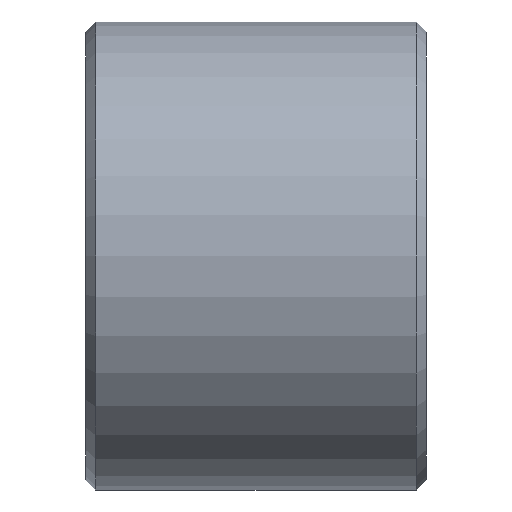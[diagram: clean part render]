
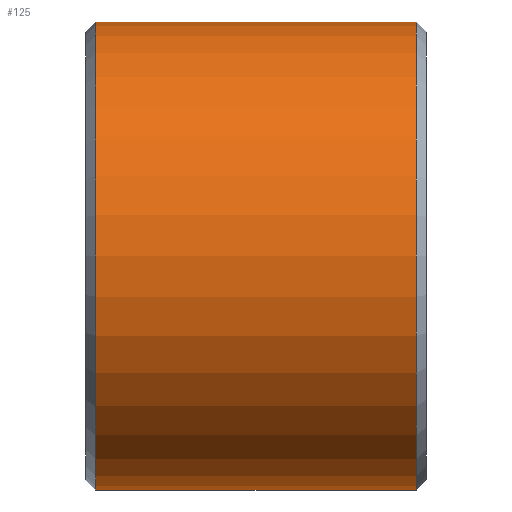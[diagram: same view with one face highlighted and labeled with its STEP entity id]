
A CAD part, front view. The second image highlights one B-rep face of the part: STEP entity #125.
In plain terms, the highlighted cylindrical face has radius 11.5 mm (diameter 23 mm), a full revolution.
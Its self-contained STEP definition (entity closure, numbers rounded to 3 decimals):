
#15=CYLINDRICAL_SURFACE('',#160,11.5);
#23=FACE_OUTER_BOUND('',#32,.T.);
#32=EDGE_LOOP('',(#94,#95,#96,#97,#98,#99));
#40=LINE('',#233,#46);
#46=VECTOR('',#193,11.5);
#52=CIRCLE('',#156,11.5);
#53=CIRCLE('',#157,11.5);
#55=CIRCLE('',#161,11.5);
#56=CIRCLE('',#162,11.5);
#62=VERTEX_POINT('',#220);
#63=VERTEX_POINT('',#222);
#65=VERTEX_POINT('',#229);
#66=VERTEX_POINT('',#230);
#73=EDGE_CURVE('',#62,#63,#52,.T.);
#74=EDGE_CURVE('',#63,#62,#53,.T.);
#76=EDGE_CURVE('',#65,#66,#55,.T.);
#77=EDGE_CURVE('',#66,#65,#56,.T.);
#78=EDGE_CURVE('',#66,#63,#40,.T.);
#94=ORIENTED_EDGE('',*,*,#76,.F.);
#95=ORIENTED_EDGE('',*,*,#77,.F.);
#96=ORIENTED_EDGE('',*,*,#78,.T.);
#97=ORIENTED_EDGE('',*,*,#73,.F.);
#98=ORIENTED_EDGE('',*,*,#74,.F.);
#99=ORIENTED_EDGE('',*,*,#78,.F.);
#125=ADVANCED_FACE('',(#23),#15,.T.);
#156=AXIS2_PLACEMENT_3D('',#223,#179,#180);
#157=AXIS2_PLACEMENT_3D('',#224,#181,#182);
#160=AXIS2_PLACEMENT_3D('',#228,#187,#188);
#161=AXIS2_PLACEMENT_3D('',#231,#189,#190);
#162=AXIS2_PLACEMENT_3D('',#232,#191,#192);
#179=DIRECTION('center_axis',(-1.,0.,0.));
#180=DIRECTION('ref_axis',(0.,-1.,0.));
#181=DIRECTION('center_axis',(-1.,0.,0.));
#182=DIRECTION('ref_axis',(0.,-1.,0.));
#187=DIRECTION('center_axis',(1.,0.,0.));
#188=DIRECTION('ref_axis',(0.,1.,0.));
#189=DIRECTION('center_axis',(1.,0.,0.));
#190=DIRECTION('ref_axis',(0.,-1.,0.));
#191=DIRECTION('center_axis',(1.,0.,0.));
#192=DIRECTION('ref_axis',(0.,-1.,0.));
#193=DIRECTION('',(-1.,0.,0.));
#220=CARTESIAN_POINT('',(-7.875,11.5,0.));
#222=CARTESIAN_POINT('',(-7.875,-11.5,0.));
#223=CARTESIAN_POINT('Origin',(-7.875,0.,0.));
#224=CARTESIAN_POINT('Origin',(-7.875,0.,0.));
#228=CARTESIAN_POINT('Origin',(0.,0.,0.));
#229=CARTESIAN_POINT('',(7.875,11.5,0.));
#230=CARTESIAN_POINT('',(7.875,-11.5,0.));
#231=CARTESIAN_POINT('Origin',(7.875,0.,0.));
#232=CARTESIAN_POINT('Origin',(7.875,0.,0.));
#233=CARTESIAN_POINT('',(0.,-11.5,0.));
